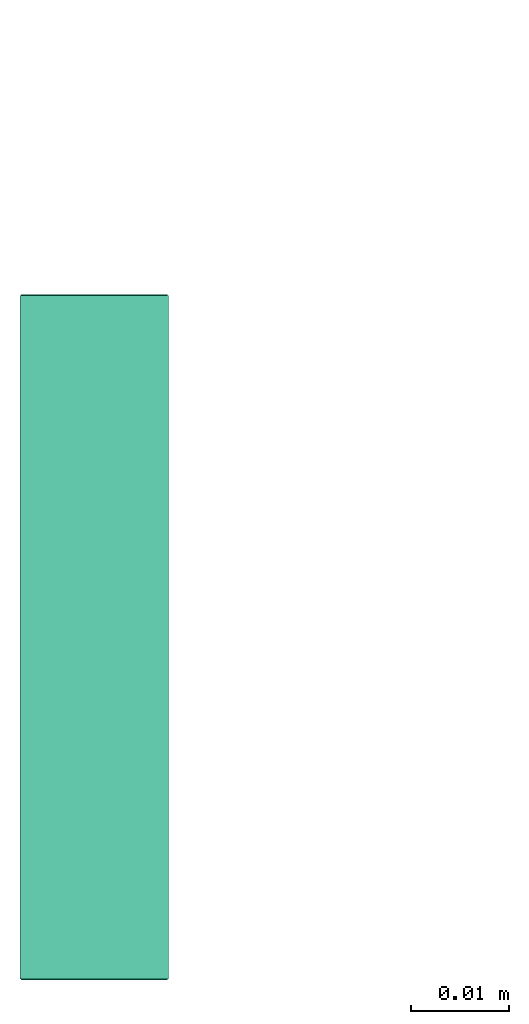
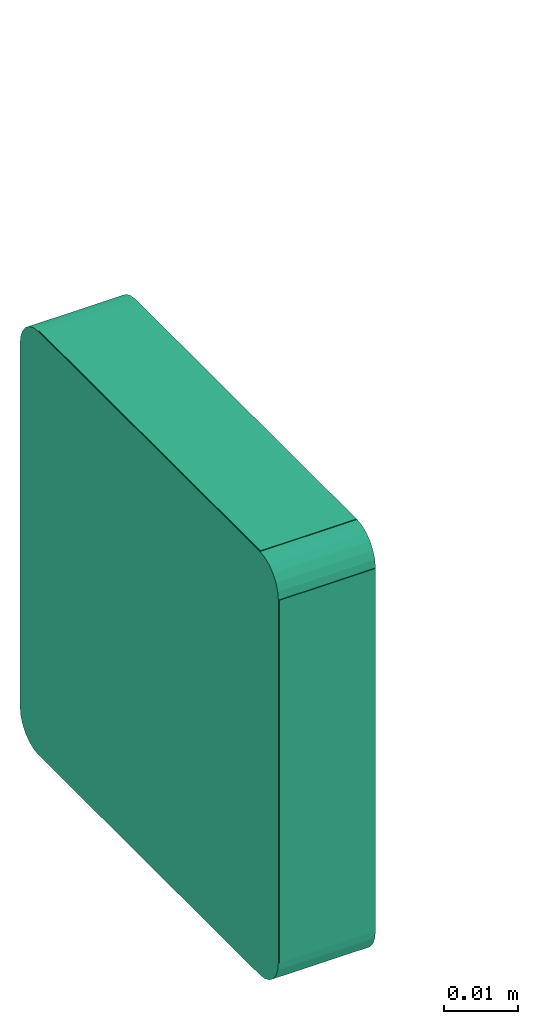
# One storey, part 2 of 4: 1 distribution control element.
"""IFC2X3 building model written with IfcOpenShell, lengths in millimetres."""

from ifc_helpers import new_model, entity, si_unit, converted_unit, derived_unit, direction, frame, origin_with_axes, place, context, subcontext, project, spatial, open_shell, surface_model, source, transform, mapped, type_object, element, save


model = new_model("IFC2X3")

# Units and contexts
model_context = context("Model", 3, precision=0.01, world=frame((0.0, 4.29681676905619e-09, 0.0)), true_north=direction((4.01073788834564e-13, 1.0)))
plan_context = context("Plan", 3, precision=0.01, world=frame((0.0, 4.29681676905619e-09, 0.0)), true_north=direction((4.01073788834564e-13, 1.0)))
body_context = subcontext(model_context, "Body", "Model", "MODEL_VIEW")
ifc_project = project(units=[converted_unit("PLANEANGLEUNIT", "DEGREE", entity("IfcPositiveLengthMeasure", 0.0174532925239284), si_unit("PLANEANGLEUNIT", "RADIAN"), dimensions=[0, 0, 0, 0, 0, 0, 0]), si_unit("AREAUNIT", "SQUARE_METRE"), si_unit("LENGTHUNIT", "METRE", prefix="MILLI"), si_unit("MASSUNIT", "GRAM", prefix="KILO"), si_unit("POWERUNIT", "WATT"), si_unit("PRESSUREUNIT", "PASCAL", prefix="KILO"), si_unit("FORCEUNIT", "NEWTON", prefix="KILO"), si_unit("ELECTRICVOLTAGEUNIT", "VOLT"), si_unit("ELECTRICCURRENTUNIT", "AMPERE"), si_unit("THERMODYNAMICTEMPERATUREUNIT", "DEGREE_CELSIUS"), si_unit("TIMEUNIT", "SECOND"), si_unit("VOLUMEUNIT", "CUBIC_METRE"), derived_unit("LINEARVELOCITYUNIT", [(si_unit("LENGTHUNIT", "METRE"), 1), (si_unit("TIMEUNIT", "SECOND"), -1)]), derived_unit("VOLUMETRICFLOWRATEUNIT", [(si_unit("VOLUMEUNIT", "CUBIC_METRE"), 1), (si_unit("TIMEUNIT", "SECOND"), -1)]), derived_unit("THERMALTRANSMITTANCEUNIT", [(si_unit("POWERUNIT", "WATT"), 1), (si_unit("THERMODYNAMICTEMPERATUREUNIT", "KELVIN"), -1), (si_unit("AREAUNIT", "SQUARE_METRE"), -1)]), derived_unit("SOUNDPRESSUREUNIT", [(si_unit("PRESSUREUNIT", "PASCAL"), 1)])], contexts=[model_context, plan_context])

# Site, building, storey
site_placement = place(None, frame((0.0, -4.29681676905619e-09, 0.0), z_axis=(0.0, 0.0, 1.0), x_axis=(1.0, 0.0, 0.0)))
site = spatial("IfcSite", under=ifc_project, at=site_placement, Name="ENGM", CompositionType="ELEMENT")
building_placement = place(site_placement, frame((0.0, 4.29681676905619e-09, 0.0), z_axis=(0.0, 0.0, 1.0), x_axis=(1.0, 0.0, 0.0)))
building = spatial("IfcBuilding", under=site, at=building_placement, Name="TS", CompositionType="ELEMENT")
storey_placement = place(building_placement, frame((0.0, 0.0, 210900.0), z_axis=(0.0, 0.0, 1.0), x_axis=(1.0, 0.0, 0.0)))
storey = spatial("IfcBuildingStorey", under=building, at=storey_placement, Name="Nivå F", CompositionType="ELEMENT", Elevation=210900.0)

# Distribution control element
alarm_type = type_object("IfcAlarmType", Name="Standard", PredefinedType="NOTDEFINED")
shared_shape = source(origin_with_axes(), body_context, "Body", "SurfaceModel", [
    surface_model("IfcShellBasedSurfaceModel", [(-30.0, 0.0, -35.1), (-30.0, 15.0, -35.1), (30.0, 0.0, -35.1), (30.0, 15.0, -35.1), (30.0, 0.0, -34.9), (30.0, 15.0, -34.9), (-30.0, 0.0, -34.9), (-30.0, 15.0, -34.9), (34.9, 15.0, -30.0), (34.9, 0.0, -30.0), (34.9, 15.0, 30.0), (34.9, 0.0, 30.0), (35.1, 15.0, 30.0), (35.1, 0.0, 30.0), (35.1, 15.0, -30.0), (35.1, 0.0, -30.0), (-35.1, 15.0, -30.0), (-35.1, 0.0, -30.0), (-35.1, 15.0, 30.0), (-35.1, 0.0, 30.0), (-34.9, 15.0, 30.0), (-34.9, 0.0, 30.0), (-34.9, 15.0, -30.0), (-34.9, 0.0, -30.0), (-30.0, 0.0, 34.9), (-30.0, 15.0, 34.9), (30.0, 0.0, 34.9), (30.0, 15.0, 34.9), (30.0, 0.0, 35.1), (30.0, 15.0, 35.1), (-30.0, 0.0, 35.1), (-30.0, 15.0, 35.1), (-35.0, 14.9, -30.0), (-30.0, 14.9, -30.0), (-35.0, 14.9, 30.0), (-30.0, 14.9, 30.0), (-35.0, 15.1, 30.0), (-30.0, 15.1, 30.0), (-30.0, 15.1, -30.0), (-35.0, 15.1, -30.0), (-30.0, 14.9, -35.0), (30.0, 14.9, -35.0), (30.0, 14.9, -30.0), (30.0, 15.1, -30.0), (30.0, 15.1, -35.0), (-30.0, 15.1, -35.0), (35.0, 14.9, -30.0), (30.0, 14.9, 30.0), (35.0, 14.9, 30.0), (30.0, 15.1, 30.0), (35.0, 15.1, 30.0), (35.0, 15.1, -30.0), (-35.0, -0.1, -30.0), (-30.0, -0.1, -30.0), (-35.0, -0.1, 30.0), (-30.0, -0.1, 30.0), (-35.0, 0.1, 30.0), (-30.0, 0.1, 30.0), (-30.0, 0.1, -30.0), (-35.0, 0.1, -30.0), (-30.0, -0.1, -35.0), (30.0, -0.1, -35.0), (30.0, -0.1, -30.0), (30.0, 0.1, -30.0), (30.0, 0.1, -35.0), (-30.0, 0.1, -35.0), (35.0, -0.1, -30.0), (30.0, -0.1, 30.0), (35.0, -0.1, 30.0), (30.0, 0.1, 30.0), (35.0, 0.1, 30.0), (35.0, 0.1, -30.0), (30.0, 14.9, 35.0), (-30.0, 14.9, 35.0), (-30.0, 15.1, 35.0), (30.0, 15.1, 35.0), (30.0, -0.1, 35.0), (-30.0, -0.1, 35.0), (-30.0, 0.1, 35.0), (30.0, 0.1, 35.0), (-34.82963, 15.0, -31.2941), (-35.0, 15.0, -30.0), (-34.2, 15.0, -30.0), (-34.05689, 15.0, -31.08704), (-34.33013, 15.0, -32.5), (-33.63731, 15.0, -32.1), (-33.53553, 15.0, -33.53553), (-32.96985, 15.0, -32.96985), (-32.1, 15.0, -33.63731), (-31.08704, 15.0, -34.05689), (-32.5, 15.0, -34.33013), (-31.2941, 15.0, -34.82963), (-30.0, 15.0, -34.2), (-30.0, 15.0, -35.0), (-32.5, 0.0, -34.33013), (-32.1, 0.0, -33.63731), (-33.53553, 0.0, -33.53553), (-31.08704, 0.0, -34.05689), (-30.0, 0.0, -35.0), (-30.0, 0.0, -34.2), (-31.2941, 0.0, -34.82963), (-32.96985, 0.0, -32.96985), (-34.82963, 0.0, -31.2941), (-34.05689, 0.0, -31.08704), (-34.2, 0.0, -30.0), (-35.0, 0.0, -30.0), (-33.63731, 0.0, -32.1), (-34.33013, 0.0, -32.5), (31.2941, 15.0, -34.82963), (30.0, 15.0, -35.0), (30.0, 15.0, -34.2), (31.08704, 15.0, -34.05689), (32.5, 15.0, -34.33013), (32.1, 15.0, -33.63731), (33.53553, 15.0, -33.53553), (32.96985, 15.0, -32.96985), (33.63731, 15.0, -32.1), (34.05689, 15.0, -31.08704), (34.33013, 15.0, -32.5), (34.82963, 15.0, -31.2941), (34.2, 15.0, -30.0), (35.0, 15.0, -30.0), (34.33013, 0.0, -32.5), (33.63731, 0.0, -32.1), (33.53553, 0.0, -33.53553), (34.05689, 0.0, -31.08704), (35.0, 0.0, -30.0), (34.2, 0.0, -30.0), (34.82963, 0.0, -31.2941), (32.96985, 0.0, -32.96985), (31.2941, 0.0, -34.82963), (31.08704, 0.0, -34.05689), (30.0, 0.0, -34.2), (30.0, 0.0, -35.0), (32.1, 0.0, -33.63731), (32.5, 0.0, -34.33013), (-31.2941, 15.0, 34.82963), (-30.0, 15.0, 35.0), (-30.0, 15.0, 34.2), (-31.08704, 15.0, 34.05689), (-32.5, 15.0, 34.33013), (-32.1, 15.0, 33.63731), (-33.53553, 15.0, 33.53553), (-32.96985, 15.0, 32.96985), (-33.63731, 15.0, 32.1), (-34.05689, 15.0, 31.08704), (-34.33013, 15.0, 32.5), (-34.82963, 15.0, 31.2941), (-34.2, 15.0, 30.0), (-35.0, 15.0, 30.0), (-34.33013, 0.0, 32.5), (-33.63731, 0.0, 32.1), (-33.53553, 0.0, 33.53553), (-34.05689, 0.0, 31.08704), (-35.0, 0.0, 30.0), (-34.2, 0.0, 30.0), (-34.82963, 0.0, 31.2941), (-32.96985, 0.0, 32.96985), (-31.2941, 0.0, 34.82963), (-31.08704, 0.0, 34.05689), (-30.0, 0.0, 34.2), (-30.0, 0.0, 35.0), (-32.1, 0.0, 33.63731), (-32.5, 0.0, 34.33013), (34.82963, 15.0, 31.2941), (35.0, 15.0, 30.0), (34.2, 15.0, 30.0), (34.05689, 15.0, 31.08704), (34.33013, 15.0, 32.5), (33.63731, 15.0, 32.1), (33.53553, 15.0, 33.53553), (32.96985, 15.0, 32.96985), (32.1, 15.0, 33.63731), (31.08704, 15.0, 34.05689), (32.5, 15.0, 34.33013), (31.2941, 15.0, 34.82963), (30.0, 15.0, 34.2), (30.0, 15.0, 35.0), (32.5, 0.0, 34.33013), (32.1, 0.0, 33.63731), (33.53553, 0.0, 33.53553), (31.08704, 0.0, 34.05689), (30.0, 0.0, 35.0), (30.0, 0.0, 34.2), (31.2941, 0.0, 34.82963), (32.96985, 0.0, 32.96985), (34.82963, 0.0, 31.2941), (34.05689, 0.0, 31.08704), (34.2, 0.0, 30.0), (35.0, 0.0, 30.0), (33.63731, 0.0, 32.1), (34.33013, 0.0, 32.5), (-34.33013, 15.1, -32.5), (-34.82963, 15.1, -31.2941), (-33.53553, 15.1, -33.53553), (-32.5, 15.1, -34.33013), (-31.2941, 15.1, -34.82963), (-32.5, 14.9, -34.33013), (-31.2941, 14.9, -34.82963), (-33.53553, 14.9, -33.53553), (-34.33013, 14.9, -32.5), (-34.82963, 14.9, -31.2941), (32.5, 15.1, -34.33013), (31.2941, 15.1, -34.82963), (33.53553, 15.1, -33.53553), (34.33013, 15.1, -32.5), (34.82963, 15.1, -31.2941), (34.33013, 14.9, -32.5), (34.82963, 14.9, -31.2941), (33.53553, 14.9, -33.53553), (31.2941, 14.9, -34.82963), (32.5, 14.9, -34.33013), (-34.33013, 0.1, -32.5), (-34.82963, 0.1, -31.2941), (-33.53553, 0.1, -33.53553), (-32.5, 0.1, -34.33013), (-31.2941, 0.1, -34.82963), (-32.5, -0.1, -34.33013), (-31.2941, -0.1, -34.82963), (-33.53553, -0.1, -33.53553), (-34.33013, -0.1, -32.5), (-34.82963, -0.1, -31.2941), (32.5, 0.1, -34.33013), (31.2941, 0.1, -34.82963), (33.53553, 0.1, -33.53553), (34.33013, 0.1, -32.5), (34.82963, 0.1, -31.2941), (34.33013, -0.1, -32.5), (34.82963, -0.1, -31.2941), (33.53553, -0.1, -33.53553), (31.2941, -0.1, -34.82963), (32.5, -0.1, -34.33013), (-32.5, 15.1, 34.33013), (-31.2941, 15.1, 34.82963), (-33.53553, 15.1, 33.53553), (-34.33013, 15.1, 32.5), (-34.82963, 15.1, 31.2941), (-34.33013, 14.9, 32.5), (-34.82963, 14.9, 31.2941), (-33.53553, 14.9, 33.53553), (-31.2941, 14.9, 34.82963), (-32.5, 14.9, 34.33013), (-32.5, 0.1, 34.33013), (-31.2941, 0.1, 34.82963), (-33.53553, 0.1, 33.53553), (-34.33013, 0.1, 32.5), (-34.82963, 0.1, 31.2941), (-34.33013, -0.1, 32.5), (-34.82963, -0.1, 31.2941), (-33.53553, -0.1, 33.53553), (-31.2941, -0.1, 34.82963), (-32.5, -0.1, 34.33013), (34.33013, 15.1, 32.5), (34.82963, 15.1, 31.2941), (33.53553, 15.1, 33.53553), (32.5, 15.1, 34.33013), (31.2941, 15.1, 34.82963), (32.5, 14.9, 34.33013), (31.2941, 14.9, 34.82963), (33.53553, 14.9, 33.53553), (34.82963, 14.9, 31.2941), (34.33013, 14.9, 32.5), (34.33013, 0.1, 32.5), (34.82963, 0.1, 31.2941), (33.53553, 0.1, 33.53553), (32.5, 0.1, 34.33013), (31.2941, 0.1, 34.82963), (32.5, -0.1, 34.33013), (31.2941, -0.1, 34.82963), (33.53553, -0.1, 33.53553), (34.82963, -0.1, 31.2941), (34.33013, -0.1, 32.5)], [open_shell([[[0, 1, 2]], [[3, 2, 1]], [[4, 5, 6]], [[7, 6, 5]], [[3, 1, 7]], [[7, 5, 3]], [[2, 3, 5]], [[5, 4, 2]], [[0, 2, 4]], [[4, 6, 0]], [[1, 0, 6]], [[6, 7, 1]], [[8, 9, 10]], [[11, 10, 9]], [[12, 13, 14]], [[15, 14, 13]], [[11, 9, 15]], [[15, 13, 11]], [[10, 11, 13]], [[13, 12, 10]], [[8, 10, 12]], [[12, 14, 8]], [[9, 8, 14]], [[14, 15, 9]], [[16, 17, 18]], [[19, 18, 17]], [[20, 21, 22]], [[23, 22, 21]], [[19, 17, 23]], [[23, 21, 19]], [[18, 19, 21]], [[21, 20, 18]], [[16, 18, 20]], [[20, 22, 16]], [[17, 16, 22]], [[22, 23, 17]], [[24, 25, 26]], [[27, 26, 25]], [[28, 29, 30]], [[31, 30, 29]], [[27, 25, 31]], [[31, 29, 27]], [[26, 27, 29]], [[29, 28, 26]], [[24, 26, 28]], [[28, 30, 24]], [[25, 24, 30]], [[30, 31, 25]], [[32, 33, 34]], [[35, 34, 33]], [[36, 37, 38]], [[38, 39, 36]], [[35, 33, 38]], [[38, 37, 35]], [[34, 35, 37]], [[37, 36, 34]], [[32, 34, 36]], [[36, 39, 32]], [[33, 32, 39]], [[39, 38, 33]], [[40, 41, 42]], [[42, 33, 40]], [[38, 43, 44]], [[44, 45, 38]], [[42, 41, 44]], [[44, 43, 42]], [[33, 42, 43]], [[43, 38, 33]], [[40, 33, 38]], [[38, 45, 40]], [[41, 40, 45]], [[45, 44, 41]], [[42, 46, 47]], [[48, 47, 46]], [[49, 50, 51]], [[51, 43, 49]], [[48, 46, 51]], [[51, 50, 48]], [[47, 48, 50]], [[50, 49, 47]], [[42, 47, 49]], [[49, 43, 42]], [[46, 42, 43]], [[43, 51, 46]], [[52, 53, 54]], [[55, 54, 53]], [[56, 57, 58]], [[58, 59, 56]], [[55, 53, 58]], [[58, 57, 55]], [[54, 55, 57]], [[57, 56, 54]], [[52, 54, 56]], [[56, 59, 52]], [[53, 52, 59]], [[59, 58, 53]], [[60, 61, 62]], [[62, 53, 60]], [[58, 63, 64]], [[64, 65, 58]], [[62, 61, 64]], [[64, 63, 62]], [[53, 62, 63]], [[63, 58, 53]], [[60, 53, 58]], [[58, 65, 60]], [[61, 60, 65]], [[65, 64, 61]], [[62, 66, 67]], [[68, 67, 66]], [[69, 70, 71]], [[71, 63, 69]], [[68, 66, 71]], [[71, 70, 68]], [[67, 68, 70]], [[70, 69, 67]], [[62, 67, 69]], [[69, 63, 62]], [[66, 62, 63]], [[63, 71, 66]], [[35, 47, 72]], [[72, 73, 35]], [[74, 75, 49]], [[49, 37, 74]], [[72, 47, 49]], [[49, 75, 72]], [[73, 72, 75]], [[75, 74, 73]], [[35, 73, 74]], [[74, 37, 35]], [[47, 35, 37]], [[37, 49, 47]], [[55, 67, 76]], [[76, 77, 55]], [[78, 79, 69]], [[69, 57, 78]], [[76, 67, 69]], [[69, 79, 76]], [[77, 76, 79]], [[79, 78, 77]], [[55, 77, 78]], [[78, 57, 55]], [[67, 55, 57]], [[57, 69, 67]], [[33, 42, 47]], [[47, 35, 33]], [[37, 49, 43]], [[43, 38, 37]], [[47, 42, 43]], [[43, 49, 47]], [[35, 47, 49]], [[49, 37, 35]], [[33, 35, 37]], [[37, 38, 33]], [[42, 33, 38]], [[38, 43, 42]], [[53, 62, 67]], [[67, 55, 53]], [[57, 69, 63]], [[63, 58, 57]], [[67, 62, 63]], [[63, 69, 67]], [[55, 67, 69]], [[69, 57, 55]], [[53, 55, 57]], [[57, 58, 53]], [[62, 53, 58]], [[58, 63, 62]], [[80, 81, 82]], [[80, 82, 83]], [[80, 83, 84]], [[85, 86, 84]], [[86, 85, 87]], [[83, 85, 84]], [[88, 89, 90]], [[88, 90, 86]], [[90, 89, 91]], [[92, 93, 91]], [[89, 92, 91]], [[88, 86, 87]], [[94, 95, 96]], [[97, 95, 94]], [[98, 99, 100]], [[100, 99, 97]], [[97, 94, 100]], [[95, 101, 96]], [[102, 103, 104]], [[102, 104, 105]], [[96, 106, 107]], [[106, 96, 101]], [[107, 106, 103]], [[103, 102, 107]], [[82, 81, 104]], [[105, 104, 81]], [[83, 82, 104]], [[85, 83, 103]], [[103, 83, 104]], [[101, 87, 106]], [[85, 103, 106]], [[85, 106, 87]], [[89, 88, 95]], [[92, 89, 97]], [[95, 88, 101]], [[89, 95, 97]], [[92, 97, 99]], [[87, 101, 88]], [[93, 92, 98]], [[99, 98, 92]], [[91, 98, 100]], [[90, 100, 94]], [[93, 98, 91]], [[90, 91, 100]], [[86, 90, 94]], [[94, 96, 86]], [[84, 96, 107]], [[80, 107, 102]], [[84, 107, 80]], [[81, 80, 102]], [[105, 81, 102]], [[96, 84, 86]], [[108, 109, 110]], [[108, 110, 111]], [[108, 111, 112]], [[113, 114, 112]], [[114, 113, 115]], [[111, 113, 112]], [[116, 117, 118]], [[116, 118, 114]], [[118, 117, 119]], [[120, 121, 119]], [[117, 120, 119]], [[116, 114, 115]], [[122, 123, 124]], [[125, 123, 122]], [[126, 127, 128]], [[128, 127, 125]], [[125, 122, 128]], [[123, 129, 124]], [[130, 131, 132]], [[130, 132, 133]], [[124, 134, 135]], [[134, 124, 129]], [[135, 134, 131]], [[131, 130, 135]], [[110, 109, 132]], [[133, 132, 109]], [[111, 110, 132]], [[113, 111, 131]], [[131, 111, 132]], [[129, 115, 134]], [[113, 131, 134]], [[113, 134, 115]], [[117, 116, 123]], [[120, 117, 125]], [[123, 116, 129]], [[117, 123, 125]], [[120, 125, 127]], [[115, 129, 116]], [[121, 120, 127]], [[127, 126, 121]], [[119, 126, 128]], [[118, 128, 122]], [[121, 126, 119]], [[118, 119, 128]], [[114, 118, 122]], [[122, 124, 114]], [[112, 124, 135]], [[108, 135, 130]], [[112, 135, 108]], [[109, 108, 130]], [[133, 109, 130]], [[124, 112, 114]], [[136, 137, 138]], [[136, 138, 139]], [[136, 139, 140]], [[141, 142, 140]], [[142, 141, 143]], [[139, 141, 140]], [[144, 145, 146]], [[144, 146, 142]], [[146, 145, 147]], [[148, 149, 147]], [[145, 148, 147]], [[144, 142, 143]], [[150, 151, 152]], [[153, 151, 150]], [[154, 155, 156]], [[156, 155, 153]], [[153, 150, 156]], [[151, 157, 152]], [[158, 159, 160]], [[158, 160, 161]], [[152, 162, 163]], [[162, 152, 157]], [[163, 162, 159]], [[159, 158, 163]], [[138, 137, 160]], [[161, 160, 137]], [[139, 138, 160]], [[141, 139, 159]], [[159, 139, 160]], [[157, 143, 162]], [[141, 159, 162]], [[141, 162, 143]], [[145, 144, 151]], [[148, 145, 153]], [[151, 144, 157]], [[145, 151, 153]], [[148, 153, 155]], [[143, 157, 144]], [[149, 148, 154]], [[155, 154, 148]], [[147, 154, 156]], [[146, 156, 150]], [[149, 154, 147]], [[146, 147, 156]], [[142, 146, 150]], [[150, 152, 142]], [[140, 152, 163]], [[136, 163, 158]], [[140, 163, 136]], [[137, 136, 158]], [[161, 137, 158]], [[152, 140, 142]], [[164, 165, 166]], [[164, 166, 167]], [[164, 167, 168]], [[169, 170, 168]], [[170, 169, 171]], [[167, 169, 168]], [[172, 173, 174]], [[172, 174, 170]], [[174, 173, 175]], [[176, 177, 175]], [[173, 176, 175]], [[172, 170, 171]], [[178, 179, 180]], [[181, 179, 178]], [[182, 183, 184]], [[184, 183, 181]], [[181, 178, 184]], [[179, 185, 180]], [[186, 187, 188]], [[186, 188, 189]], [[180, 190, 191]], [[190, 180, 185]], [[191, 190, 187]], [[187, 186, 191]], [[166, 165, 188]], [[189, 188, 165]], [[167, 166, 188]], [[169, 167, 187]], [[187, 167, 188]], [[185, 171, 190]], [[169, 187, 190]], [[169, 190, 171]], [[173, 172, 179]], [[176, 173, 181]], [[179, 172, 185]], [[173, 179, 181]], [[176, 181, 183]], [[171, 185, 172]], [[177, 176, 182]], [[183, 182, 176]], [[175, 182, 184]], [[174, 184, 178]], [[177, 182, 175]], [[174, 175, 184]], [[170, 174, 178]], [[178, 180, 170]], [[168, 180, 191]], [[164, 191, 186]], [[168, 191, 164]], [[165, 164, 186]], [[189, 165, 186]], [[180, 168, 170]], [[38, 192, 193]], [[38, 194, 192]], [[193, 39, 38]], [[195, 38, 196]], [[38, 195, 194]], [[45, 196, 38]], [[33, 197, 198]], [[197, 33, 199]], [[198, 40, 33]], [[200, 33, 201]], [[199, 33, 200]], [[201, 33, 32]], [[38, 39, 32]], [[32, 33, 38]], [[45, 38, 33]], [[33, 40, 45]], [[196, 40, 198]], [[195, 198, 197]], [[45, 40, 196]], [[195, 196, 198]], [[194, 195, 197]], [[197, 199, 194]], [[192, 199, 200]], [[193, 200, 201]], [[192, 200, 193]], [[39, 193, 201]], [[32, 39, 201]], [[199, 192, 194]], [[202, 203, 43]], [[43, 204, 202]], [[43, 203, 44]], [[205, 43, 206]], [[43, 205, 204]], [[51, 206, 43]], [[42, 207, 208]], [[207, 42, 209]], [[208, 46, 42]], [[210, 211, 42]], [[209, 42, 211]], [[42, 41, 210]], [[43, 44, 41]], [[41, 42, 43]], [[51, 43, 42]], [[42, 46, 51]], [[206, 46, 208]], [[205, 208, 207]], [[51, 46, 206]], [[205, 206, 208]], [[204, 205, 207]], [[207, 209, 204]], [[202, 209, 211]], [[203, 211, 210]], [[202, 211, 203]], [[44, 203, 210]], [[41, 44, 210]], [[209, 202, 204]], [[58, 212, 213]], [[58, 214, 212]], [[213, 59, 58]], [[215, 58, 216]], [[58, 215, 214]], [[65, 216, 58]], [[53, 217, 218]], [[217, 53, 219]], [[218, 60, 53]], [[220, 53, 221]], [[219, 53, 220]], [[221, 53, 52]], [[58, 59, 52]], [[52, 53, 58]], [[65, 58, 53]], [[53, 60, 65]], [[216, 60, 218]], [[215, 218, 217]], [[65, 60, 216]], [[215, 216, 218]], [[214, 215, 217]], [[217, 219, 214]], [[212, 219, 220]], [[213, 220, 221]], [[212, 220, 213]], [[59, 213, 221]], [[52, 59, 221]], [[219, 212, 214]], [[222, 223, 63]], [[63, 224, 222]], [[63, 223, 64]], [[225, 63, 226]], [[63, 225, 224]], [[71, 226, 63]], [[62, 227, 228]], [[227, 62, 229]], [[228, 66, 62]], [[230, 231, 62]], [[229, 62, 231]], [[62, 61, 230]], [[63, 64, 62]], [[61, 62, 64]], [[71, 63, 66]], [[62, 66, 63]], [[226, 66, 228]], [[225, 228, 227]], [[71, 66, 226]], [[225, 226, 228]], [[224, 225, 227]], [[227, 229, 224]], [[222, 229, 231]], [[223, 231, 230]], [[222, 231, 223]], [[64, 223, 230]], [[61, 64, 230]], [[229, 222, 224]], [[232, 233, 37]], [[37, 234, 232]], [[37, 233, 74]], [[235, 37, 236]], [[37, 235, 234]], [[36, 236, 37]], [[35, 237, 238]], [[237, 35, 239]], [[238, 34, 35]], [[240, 241, 35]], [[239, 35, 241]], [[35, 73, 240]], [[37, 74, 73]], [[73, 35, 37]], [[36, 37, 35]], [[35, 34, 36]], [[236, 34, 238]], [[235, 238, 237]], [[36, 34, 236]], [[235, 236, 238]], [[234, 235, 237]], [[237, 239, 234]], [[232, 239, 241]], [[233, 241, 240]], [[232, 241, 233]], [[74, 233, 240]], [[73, 74, 240]], [[239, 232, 234]], [[242, 243, 57]], [[57, 244, 242]], [[57, 243, 78]], [[245, 57, 246]], [[57, 245, 244]], [[56, 246, 57]], [[55, 247, 248]], [[247, 55, 249]], [[248, 54, 55]], [[250, 251, 55]], [[249, 55, 251]], [[55, 77, 250]], [[57, 78, 77]], [[77, 55, 57]], [[56, 57, 55]], [[55, 54, 56]], [[246, 54, 248]], [[245, 248, 247]], [[56, 54, 246]], [[245, 246, 248]], [[244, 245, 247]], [[247, 249, 244]], [[242, 249, 251]], [[243, 251, 250]], [[242, 251, 243]], [[78, 243, 250]], [[77, 78, 250]], [[249, 242, 244]], [[252, 253, 49]], [[49, 254, 252]], [[49, 253, 50]], [[255, 49, 256]], [[49, 255, 254]], [[75, 256, 49]], [[47, 257, 258]], [[257, 47, 259]], [[258, 72, 47]], [[260, 261, 47]], [[259, 47, 261]], [[47, 48, 260]], [[49, 50, 48]], [[48, 47, 49]], [[75, 49, 47]], [[47, 72, 75]], [[256, 72, 258]], [[255, 258, 257]], [[75, 72, 256]], [[255, 256, 258]], [[254, 255, 257]], [[257, 259, 254]], [[252, 259, 261]], [[253, 261, 260]], [[252, 261, 253]], [[50, 253, 260]], [[48, 50, 260]], [[259, 252, 254]], [[262, 263, 69]], [[69, 264, 262]], [[69, 263, 70]], [[265, 69, 266]], [[69, 265, 264]], [[79, 266, 69]], [[67, 267, 268]], [[267, 67, 269]], [[268, 76, 67]], [[270, 271, 67]], [[269, 67, 271]], [[67, 68, 270]], [[69, 70, 68]], [[68, 67, 69]], [[79, 69, 67]], [[67, 76, 79]], [[266, 76, 268]], [[265, 268, 267]], [[79, 76, 266]], [[265, 266, 268]], [[264, 265, 267]], [[267, 269, 264]], [[262, 269, 271]], [[263, 271, 270]], [[262, 271, 263]], [[70, 263, 270]], [[68, 70, 270]], [[269, 262, 264]]])]),
])
distribution_control_element_placement = place(storey_placement, frame((714503.37867, 434539.09792, 1000.0), z_axis=(0.0, 0.0, 1.0), x_axis=(0.0, 1.0, 0.0)))
element("IfcDistributionControlElement", 1, at=distribution_control_element_placement, inside=storey, type_object=alarm_type, Name="Standard", context=body_context, shape_type="MappedRepresentation", body=[
    mapped(shared_shape, transform((0.0, 0.0, 0.0), scale=1.0)),
])

save(model, "model.ifc")
